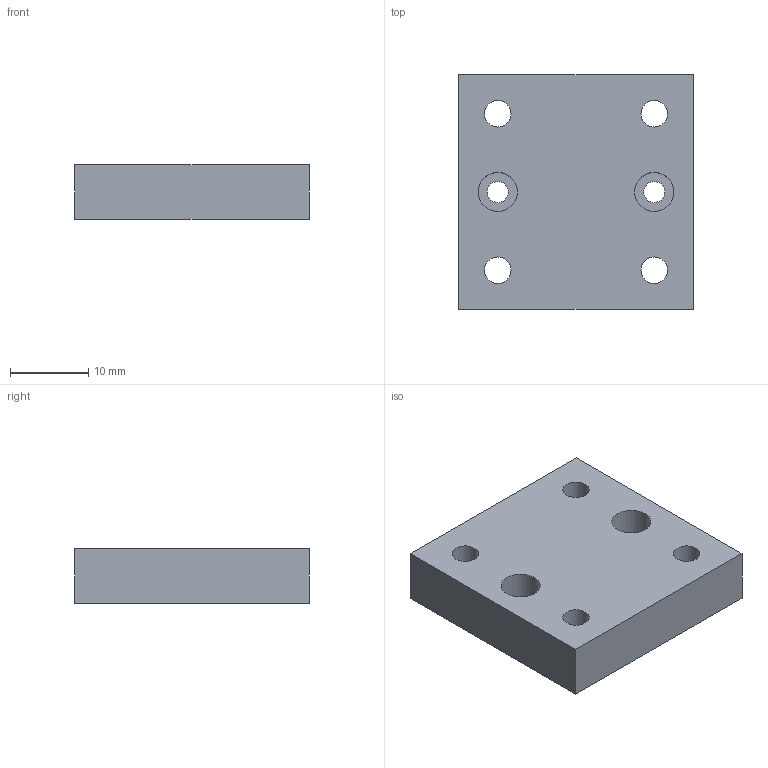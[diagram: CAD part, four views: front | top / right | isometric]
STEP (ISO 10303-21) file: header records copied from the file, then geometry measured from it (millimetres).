
FILE_DESCRIPTION(('Bauteilbeschreibung','HiCAD-Model','HiCAD-STEP-TRANSLATION','Bauteilbeschreibung'),'2;1');
FILE_NAME('G:/PROJ526_CAD-INTERNET-DOKU/KAPITEL_L-MIKROBANK/STEP/061670_STEP.STP','2003-05-13T16:26:02+00:00',('Konstrukteur'),('Konstrukteur Firma GmbH'),'HiCAD2 V1102 STEP 20.9.2001','HiCAD2 V1102','confidential');
FILE_SCHEMA(('AUTOMOTIVE_DESIGN { 1 2 10303 214 0 1 1 1 }'));
Length unit declared in the file: millimetre
Products named in the file (2): A0012355; A00123550
Assembly tree (1 placements, depth 2):
  A0012355
    A00123550
Bounding box: 30 x 30 x 7 mm (x, y, z)
Volume: 5565.5 mm3; surface area: 3145.6 mm2
Topology: 1 solids, 1 shells, 24 faces, 60 edges, 44 vertices
Faces by surface type: cylinder 12, plane 12
Full cylindrical faces by diameter (mm): 2.7 x2, 3.4 x4, 5 x2, 6 x4
Entity records: 1019 total; most frequent: DIRECTION 112, CARTESIAN_POINT 94, ORIENTED_EDGE 72, COLOUR_RGB 61, PRESENTATION_STYLE_ASSIGNMENT 61, OVER_RIDING_STYLED_ITEM 60, EDGE_LOOP 54, AXIS2_PLACEMENT_3D 50
